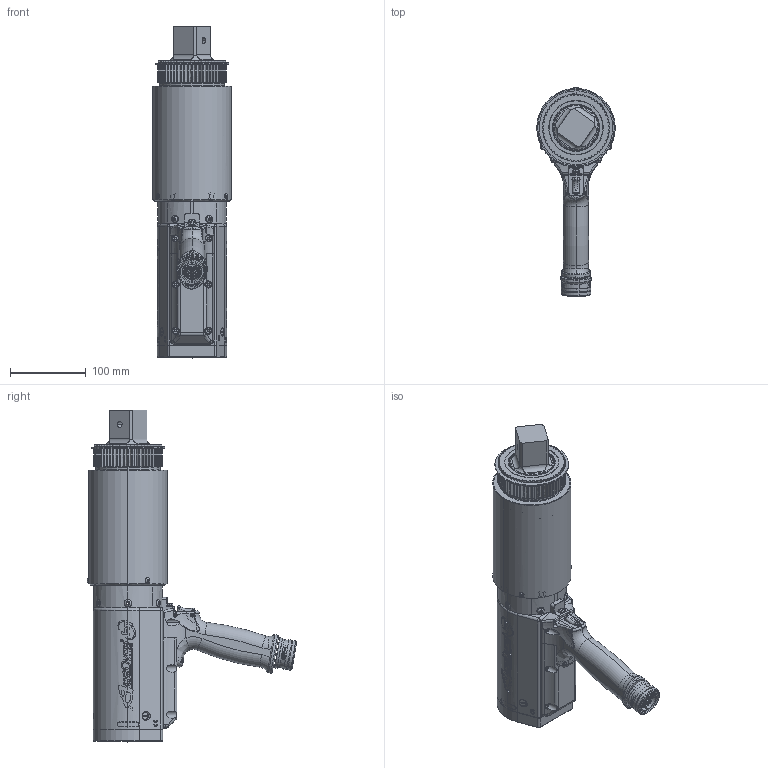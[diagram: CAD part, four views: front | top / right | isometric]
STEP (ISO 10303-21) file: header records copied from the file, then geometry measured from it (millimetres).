
FILE_DESCRIPTION (( 'STEP AP214' ), '1' );
FILE_NAME ('AEP4A896500B, AEP4A898100B.STEP', '2016-04-04T20:34:17', ( 'AIMCO' ), ( '' ), 'SwSTEP 2.0', 'SolidWorks 2016', '' );
FILE_SCHEMA (( 'AUTOMOTIVE_DESIGN' ));
Length unit declared in the file: inch
Products named in the file (1): AEP4A896500B, AEP4A898100B
Bounding box: 103.78 x 276.78 x 438.8 mm (x, y, z)
Surface area: 332224.2 mm2 (no closed solid volume)
Topology: 0 solids, 97 shells, 1249 faces, 4447 edges, 3104 vertices
Faces by surface type: cylinder 459, plane 304, bspline 247, torus 126, cone 98, sphere 15
Entity records: 139864 total; most frequent: CARTESIAN_POINT 89354, ORIENTED_EDGE 6796, DIRECTION 6488, EDGE_CURVE 4433, VERTEX_POINT 3102, AXIS2_PLACEMENT_3D 2489, LINE 1510, VECTOR 1510
